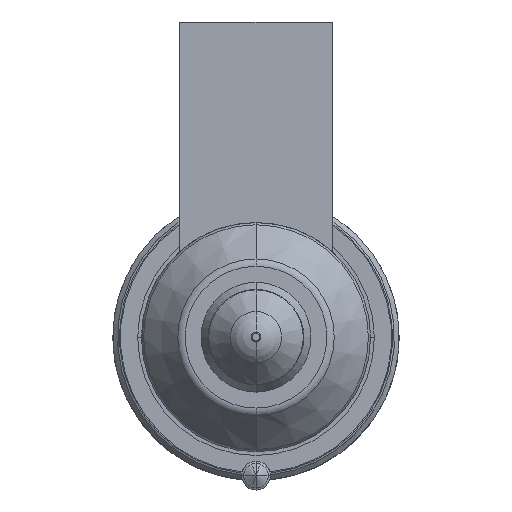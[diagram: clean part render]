
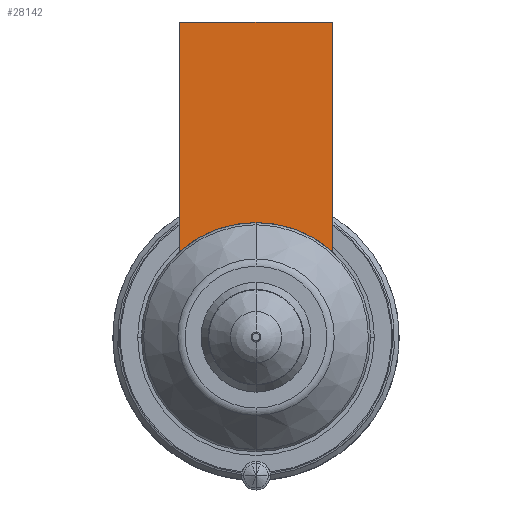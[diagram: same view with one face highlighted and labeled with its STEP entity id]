
A CAD part, front view. The second image highlights one B-rep face of the part: STEP entity #28142.
In plain terms, the highlighted planar face has unit normal (0, -1, 0).
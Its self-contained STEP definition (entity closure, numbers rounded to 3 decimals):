
#27228=DIRECTION('',(0.,0.,-1.));
#27229=VECTOR('',#27228,24.056);
#27230=CARTESIAN_POINT('',(-8.,-56.,33.));
#27231=LINE('',#27230,#27229);
#27268=DIRECTION('',(1.,0.,0.));
#27269=VECTOR('',#27268,16.);
#27270=CARTESIAN_POINT('',(-8.,-56.,33.));
#27271=LINE('',#27270,#27269);
#27275=CARTESIAN_POINT('',(0.,-56.,0.));
#27276=DIRECTION('',(0.,-1.,0.));
#27277=DIRECTION('',(0.667,0.,0.745));
#27278=AXIS2_PLACEMENT_3D('',#27275,#27276,#27277);
#27283=CARTESIAN_POINT('',(0.,-56.,0.));
#27284=DIRECTION('',(0.,-1.,0.));
#27285=DIRECTION('',(0.,0.,1.));
#27286=AXIS2_PLACEMENT_3D('',#27283,#27284,#27285);
#27319=DIRECTION('',(0.,0.,-1.));
#27320=VECTOR('',#27319,24.056);
#27321=CARTESIAN_POINT('',(8.,-56.,33.));
#27322=LINE('',#27321,#27320);
#27978=CARTESIAN_POINT('',(-8.,-56.,33.));
#27979=VERTEX_POINT('',#27978);
#27984=CARTESIAN_POINT('',(8.,-56.,33.));
#27985=VERTEX_POINT('',#27984);
#27988=CARTESIAN_POINT('',(-8.,-56.,8.944));
#27989=VERTEX_POINT('',#27988);
#27992=CARTESIAN_POINT('',(8.,-56.,8.944));
#27993=VERTEX_POINT('',#27992);
#28061=CARTESIAN_POINT('',(0.,-56.,12.));
#28062=VERTEX_POINT('',#28061);
#28127=CARTESIAN_POINT('',(-8.,-56.,33.));
#28128=DIRECTION('',(0.,-1.,0.));
#28129=DIRECTION('',(0.,0.,-1.));
#28130=AXIS2_PLACEMENT_3D('',#28127,#28128,#28129);
#28131=PLANE('',#28130);
#28132=ORIENTED_EDGE('',*,*,#28075,.F.);
#28134=ORIENTED_EDGE('',*,*,#28133,.T.);
#28136=ORIENTED_EDGE('',*,*,#28135,.T.);
#28138=ORIENTED_EDGE('',*,*,#28137,.T.);
#28139=ORIENTED_EDGE('',*,*,#28107,.T.);
#28140=EDGE_LOOP('',(#28132,#28134,#28136,#28138,#28139));
#28141=FACE_OUTER_BOUND('',#28140,.F.);
#28142=ADVANCED_FACE('',(#28141),#28131,.T.);
#27279=CIRCLE('',#27278,12.);
#27287=CIRCLE('',#27286,12.);
#28075=EDGE_CURVE('',#27979,#27989,#27231,.T.);
#28107=EDGE_CURVE('',#28062,#27989,#27287,.T.);
#28133=EDGE_CURVE('',#27979,#27985,#27271,.T.);
#28135=EDGE_CURVE('',#27985,#27993,#27322,.T.);
#28137=EDGE_CURVE('',#27993,#28062,#27279,.T.);
